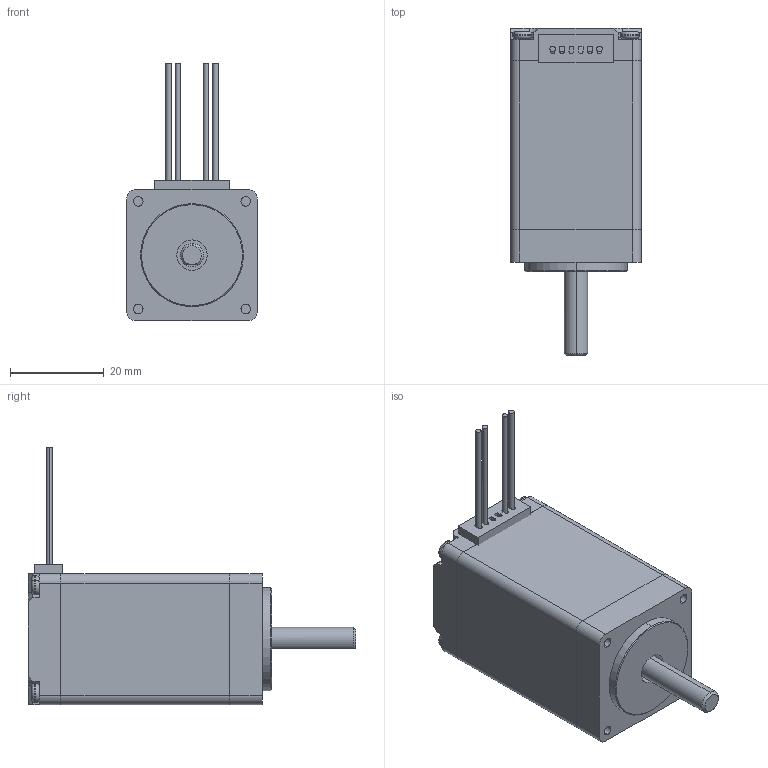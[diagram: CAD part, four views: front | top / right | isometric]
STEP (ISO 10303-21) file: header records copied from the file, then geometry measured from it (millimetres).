
FILE_DESCRIPTION (( 'STEP AP214' ), '1' );
FILE_NAME ('28BYGH251-0674A.STEP', '2018-09-11T08:50:20', ( 'Windows' ), ( 'Microsoft' ), 'SwSTEP 2.0', 'SolidWorks 2015', '' );
FILE_SCHEMA (( 'AUTOMOTIVE_DESIGN' ));
Length unit declared in the file: millimetre
Products named in the file (7): 齬脣; 粣; 28B-D13耀倰; 28A-D13耀倰; 28隅赽耀倰; 28BYGH251-0674A; M2.5蹟隊
Assembly tree (9 placements, depth 2):
  28BYGH251-0674A
    28隅赽耀倰
    28A-D13耀倰
    28B-D13耀倰
    粣
    齬脣
    M2.5蹟隊  x4
Bounding box: 28 x 70.05 x 55 mm (x, y, z)
Volume: 40109.5 mm3; surface area: 15069.3 mm2
Topology: 13 solids, 13 shells, 265 faces, 658 edges, 426 vertices
Faces by surface type: plane 133, cylinder 106, torus 16, cone 10
Entity records: 6985 total; most frequent: DIRECTION 1071, CARTESIAN_POINT 1024, ORIENTED_EDGE 974, EDGE_CURVE 487, AXIS2_PLACEMENT_3D 381, VERTEX_POINT 318, LINE 309, VECTOR 309
